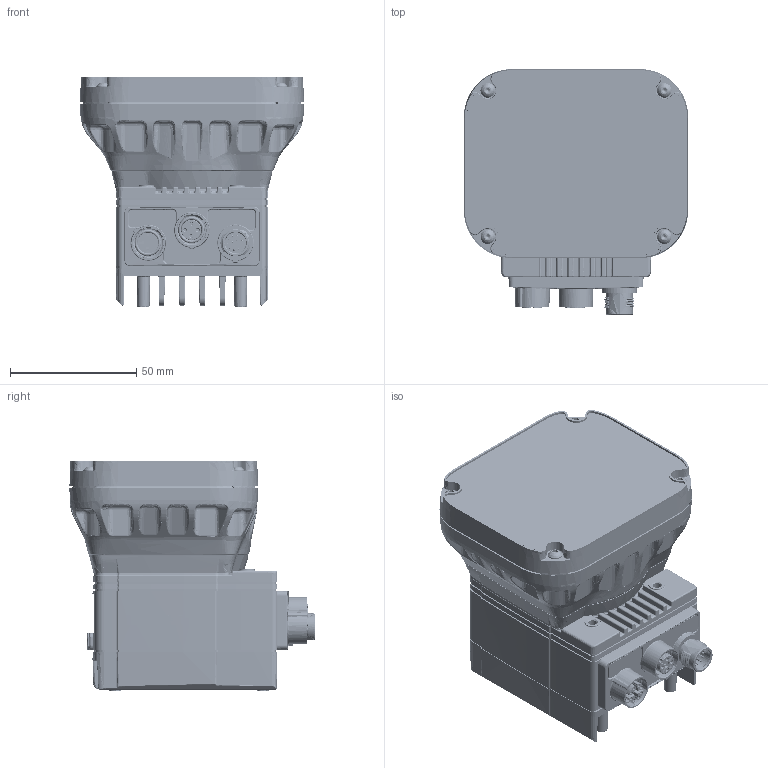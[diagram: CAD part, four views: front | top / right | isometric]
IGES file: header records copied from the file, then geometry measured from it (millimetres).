
Start section: SolidWorks IGES file using analytic representation for surfaces
Global section: file name: D:\Cog_Vault\Portland Vault\Projects\Marketing Graphics\IS016-14\IS016-14_3-29-18.IGS; native system: SolidWorks 2017; preprocessor: SolidWorks 2017; author: rgainer; date: 180330.113122; units: millimetre
Bounding box: 88.9 x 97.27 x 91.07 mm (x, y, z)
Surface area: 127343.1 mm2 (no closed solid volume)
Topology: 0 solids, 0 shells, 12667 faces, 121941 edges, 121544 vertices
Faces by surface type: bspline 8072, revolution 4595
